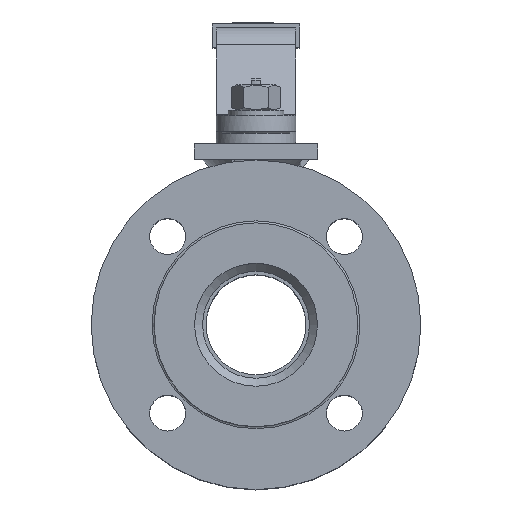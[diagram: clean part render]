
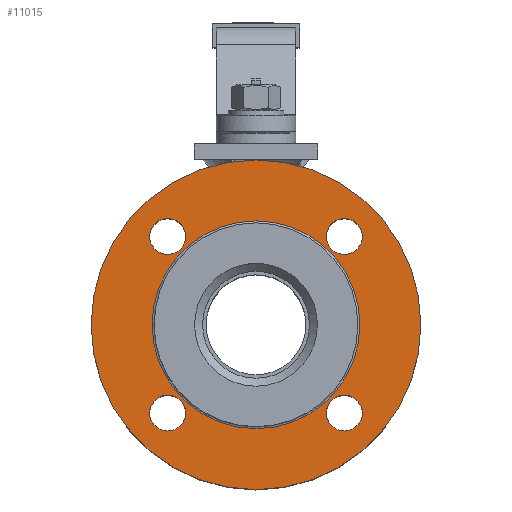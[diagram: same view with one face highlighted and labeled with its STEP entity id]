
A CAD part, top view. The second image highlights one B-rep face of the part: STEP entity #11015.
In plain terms, the highlighted planar face has unit normal (0, 0, 1).
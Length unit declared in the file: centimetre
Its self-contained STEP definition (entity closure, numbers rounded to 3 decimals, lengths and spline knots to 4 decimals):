
#2698=PLANE('',#11851);
#2868=FACE_BOUND('',#4158,.T.);
#2869=FACE_BOUND('',#4159,.T.);
#2870=FACE_BOUND('',#4160,.T.);
#2871=FACE_BOUND('',#4161,.T.);
#2872=FACE_BOUND('',#4162,.T.);
#3454=FACE_OUTER_BOUND('',#4157,.T.);
#4157=EDGE_LOOP('',(#9631));
#4158=EDGE_LOOP('',(#9632));
#4159=EDGE_LOOP('',(#9633));
#4160=EDGE_LOOP('',(#9634));
#4161=EDGE_LOOP('',(#9635));
#4162=EDGE_LOOP('',(#9636));
#4501=CIRCLE('',#11849,8.25);
#4503=CIRCLE('',#11852,0.9);
#4504=CIRCLE('',#11853,0.9);
#4505=CIRCLE('',#11854,0.9);
#4506=CIRCLE('',#11855,0.9);
#4507=CIRCLE('',#11856,5.2);
#5478=VERTEX_POINT('',#18144);
#5480=VERTEX_POINT('',#18149);
#5481=VERTEX_POINT('',#18151);
#5482=VERTEX_POINT('',#18153);
#5483=VERTEX_POINT('',#18155);
#5484=VERTEX_POINT('',#18157);
#6893=EDGE_CURVE('',#5478,#5478,#4501,.T.);
#6895=EDGE_CURVE('',#5480,#5480,#4503,.T.);
#6896=EDGE_CURVE('',#5481,#5481,#4504,.T.);
#6897=EDGE_CURVE('',#5482,#5482,#4505,.T.);
#6898=EDGE_CURVE('',#5483,#5483,#4506,.T.);
#6899=EDGE_CURVE('',#5484,#5484,#4507,.T.);
#9631=ORIENTED_EDGE('',*,*,#6893,.F.);
#9632=ORIENTED_EDGE('',*,*,#6895,.T.);
#9633=ORIENTED_EDGE('',*,*,#6896,.T.);
#9634=ORIENTED_EDGE('',*,*,#6897,.T.);
#9635=ORIENTED_EDGE('',*,*,#6898,.T.);
#9636=ORIENTED_EDGE('',*,*,#6899,.F.);
#11015=ADVANCED_FACE('',(#3454,#2868,#2869,#2870,#2871,#2872),#2698,.F.);
#11849=AXIS2_PLACEMENT_3D('',#18145,#14580,#14581);
#11851=AXIS2_PLACEMENT_3D('',#18148,#14584,#14585);
#11852=AXIS2_PLACEMENT_3D('',#18150,#14586,#14587);
#11853=AXIS2_PLACEMENT_3D('',#18152,#14588,#14589);
#11854=AXIS2_PLACEMENT_3D('',#18154,#14590,#14591);
#11855=AXIS2_PLACEMENT_3D('',#18156,#14592,#14593);
#11856=AXIS2_PLACEMENT_3D('',#18158,#14594,#14595);
#14580=DIRECTION('center_axis',(0.,0.,-1.));
#14581=DIRECTION('ref_axis',(-1.,0.,0.));
#14584=DIRECTION('center_axis',(0.,0.,-1.));
#14585=DIRECTION('ref_axis',(-1.,0.,0.));
#14586=DIRECTION('center_axis',(0.,0.,-1.));
#14587=DIRECTION('ref_axis',(0.,-1.,0.));
#14588=DIRECTION('center_axis',(0.,0.,-1.));
#14589=DIRECTION('ref_axis',(-1.,0.,0.));
#14590=DIRECTION('center_axis',(0.,0.,-1.));
#14591=DIRECTION('ref_axis',(0.,1.,0.));
#14592=DIRECTION('center_axis',(0.,0.,-1.));
#14593=DIRECTION('ref_axis',(1.,0.,0.));
#14594=DIRECTION('center_axis',(0.,0.,1.));
#14595=DIRECTION('ref_axis',(-1.,0.,0.));
#18144=CARTESIAN_POINT('',(8.25,0.,8.9));
#18145=CARTESIAN_POINT('Origin',(0.,0.,8.9));
#18148=CARTESIAN_POINT('Origin',(0.,0.,8.9));
#18149=CARTESIAN_POINT('',(4.4194,5.3194,8.9));
#18150=CARTESIAN_POINT('Origin',(4.4194,4.4194,8.9));
#18151=CARTESIAN_POINT('',(5.3194,-4.4194,8.9));
#18152=CARTESIAN_POINT('Origin',(4.4194,-4.4194,8.9));
#18153=CARTESIAN_POINT('',(-4.4194,-5.3194,8.9));
#18154=CARTESIAN_POINT('Origin',(-4.4194,-4.4194,8.9));
#18155=CARTESIAN_POINT('',(-5.3194,4.4194,8.9));
#18156=CARTESIAN_POINT('Origin',(-4.4194,4.4194,8.9));
#18157=CARTESIAN_POINT('',(5.2,0.,8.9));
#18158=CARTESIAN_POINT('Origin',(0.,0.,8.9));
